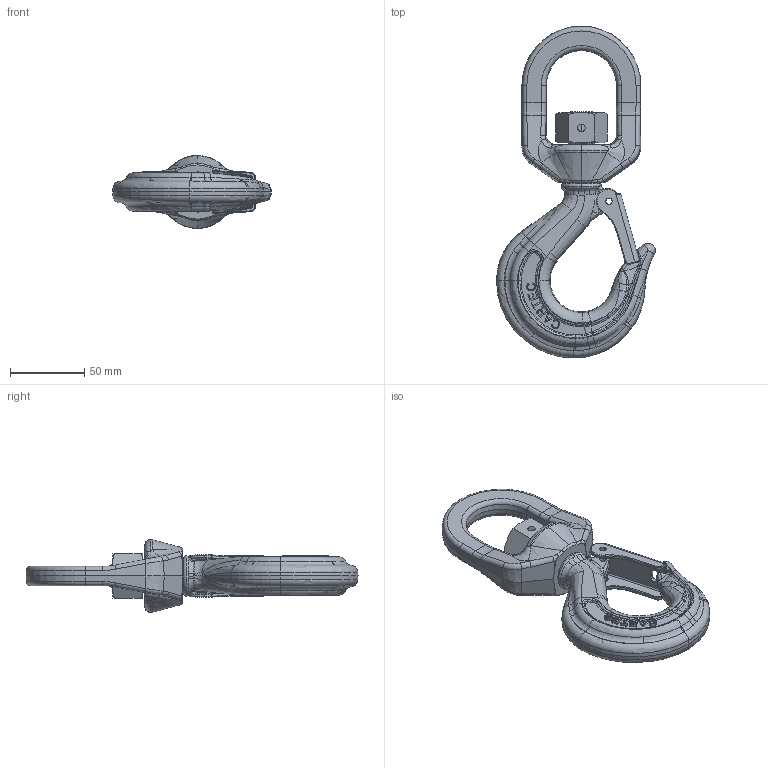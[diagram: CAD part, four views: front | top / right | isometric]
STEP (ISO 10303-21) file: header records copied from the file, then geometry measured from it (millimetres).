
FILE_DESCRIPTION(('STEP AP214'),'1');
FILE_NAME('c7g032.stp','2021-09-17T12:09:34',('TraceParts'),('TraceParts S.A.'),'Spatial InterOp 3D',' ',' ');
FILE_SCHEMA(('AUTOMOTIVE_DESIGN { 1 0 10303 214 1 1 1 1 }'));
Length unit declared in the file: millimetre
Products named in the file (1): c7g032_1
Bounding box: 106.75 x 223 x 49 mm (x, y, z)
Volume: 226957.7 mm3; surface area: 50628.4 mm2
Topology: 4 solids, 4 shells, 710 faces, 1727 edges, 1024 vertices
Faces by surface type: bspline 329, plane 127, cylinder 109, torus 79, cone 64, sphere 2
Full cylindrical faces by diameter (mm): 5 x2
Entity records: 52562 total; most frequent: CARTESIAN_POINT 37746, ORIENTED_EDGE 3434, DIRECTION 2708, EDGE_CURVE 1717, AXIS2_PLACEMENT_3D 1128, VERTEX_POINT 1024, EDGE_LOOP 731, ADVANCED_FACE 710
